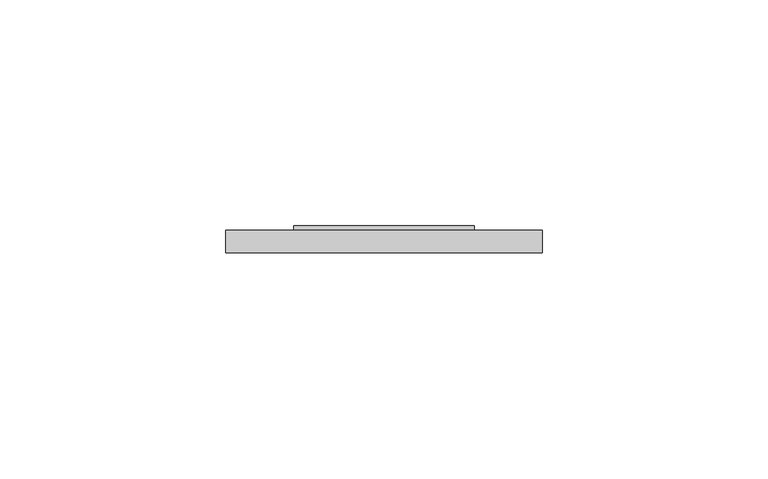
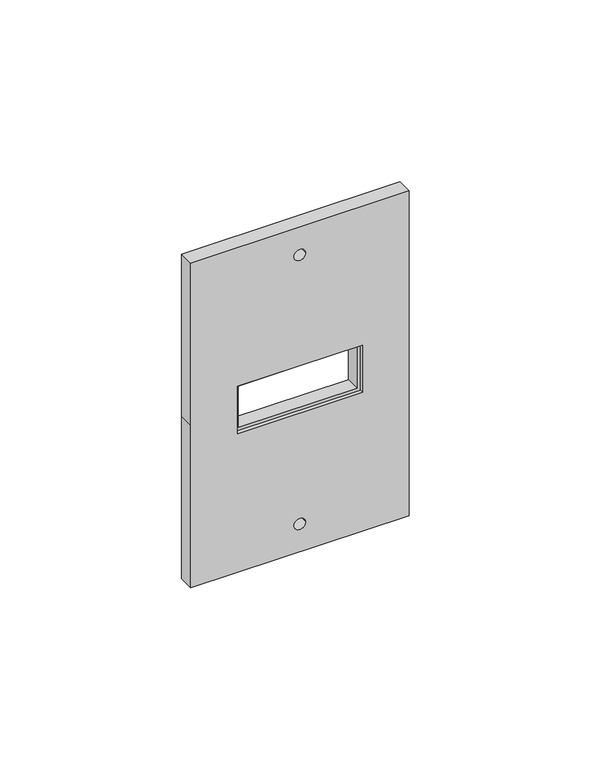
"""IFC4 building model written with IfcOpenShell, lengths in millimetres: light fixture geometry, Apagador escalera simple : Apagador."""

from ifc_helpers import new_model, si_unit, point, frame, frame_2d, origin, place, context, project, spatial, polyline, circle_curve, trimmed, segment, composite_curve, outline, extrude, source, transform, mapped, element, save


def light_fixture_7b468ed0(model_context):
    return source(origin(), model_context, "Body", "SweptSolid", [
        extrude(outline(polyline([(1092.0, 145.0), (1108.0, 145.0), (1108.0, 105.0), (1092.0, 105.0), (1092.0, 145.0)]), holes=[polyline([(1107.0, 106.0), (1107.0, 144.0), (1093.0, 144.0), (1093.0, 106.0), (1107.0, 106.0)])]), frame((0.0, 91.2025607, 0.0), z_axis=(0.0, 1.0, 0.0), x_axis=(0.0, 0.0, 1.0)), (0.0, 0.0, 1.0), 4.7658788),
        extrude(outline(polyline([(1155.0, 160.0), (1155.0, 90.0), (1100.0, 90.0), (1045.0, 90.0), (1045.0, 160.0), (1155.0, 160.0)]), holes=[composite_curve([segment(trimmed(circle_curve(frame_2d((1145.5814465, 125.0)), 1.8475425), [point((1145.5814465, 123.1524575))], [point((1145.5814465, 126.8475425))], True, "CARTESIAN"), True, "CONTINUOUS"), segment(trimmed(circle_curve(frame_2d((1145.5814465, 125.0)), 1.8475425), [point((1145.5814465, 126.8475425))], [point((1145.5814465, 123.1524575))], True, "CARTESIAN"), True, "CONTINUOUS")], self_intersect=False), composite_curve([segment(trimmed(circle_curve(frame_2d((1054.4185535, 125.0)), 1.8475425), [point((1054.4185535, 123.1524575))], [point((1054.4185535, 126.8475425))], True, "CARTESIAN"), True, "CONTINUOUS"), segment(trimmed(circle_curve(frame_2d((1054.4185535, 125.0)), 1.8475425), [point((1054.4185535, 126.8475425))], [point((1054.4185535, 123.1524575))], True, "CARTESIAN"), True, "CONTINUOUS")], self_intersect=False), polyline([(1108.0, 105.0), (1108.0, 145.0), (1092.0, 145.0), (1092.0, 105.0), (1108.0, 105.0)])]), frame((0.0, 90.0, 0.0), z_axis=(0.0, 1.0, 0.0), x_axis=(0.0, 0.0, 1.0)), (0.0, 0.0, 1.0), 5.0),
    ])


if __name__ == "__main__":
    model = new_model("IFC4")
    model_context = context("Model", 3, world=origin())
    ifc_project = project(units=[si_unit("LENGTHUNIT", "METRE", prefix="MILLI")], contexts=[model_context])
    site = spatial("IfcSite", under=ifc_project)
    building = spatial("IfcBuilding", under=site)
    placement = place(None, origin())
    light_fixture_shape = light_fixture_7b468ed0(model_context)
    element("IfcLightFixture", 1, ObjectType="Apagador escalera simple : Apagador", at=placement, inside=building, context=model_context, shape_type="MappedRepresentation", body=[
        mapped(light_fixture_shape, transform((0.0, 0.0, 0.0), x_axis=(1.0, 0.0, 0.0), y_axis=(0.0, 1.0, 0.0), z_axis=(0.0, 0.0, 1.0))),
    ])
    save(model, "model.ifc")
